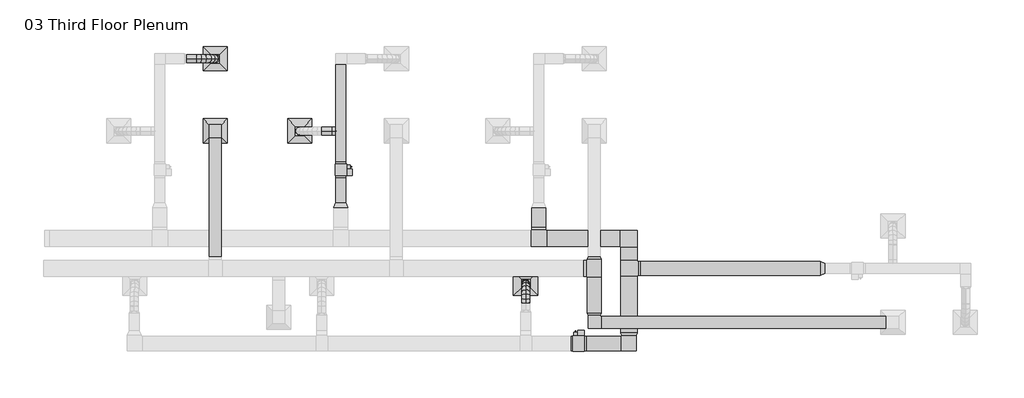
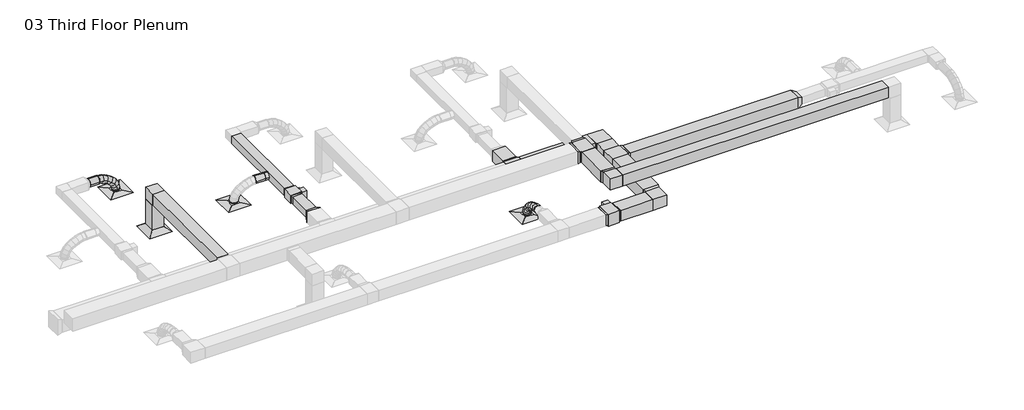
# One storey, part 7 of 9: 16 duct fittings, 16 duct segments, 4 air terminals, 2 proxies.
"""IFC4 building model written with IfcOpenShell, lengths in millimetres."""

from ifc_helpers import new_model, si_unit, point, frame, frame_2d, origin, place, context, project, spatial, polyline, circle_curve, ellipse_curve, trimmed, segment, composite_curve, outline, extrude, transform, mapped, element, save
from ifc_brep_helpers import plane_surface, cylinder_surface, advanced_brep
from components import return_diffuser_d30_returndiffuser_24x24_12x12_connection_ff543d60, supply_diffuser_rectangular_face_round_neck_d30_6390248a, bcn6785_vav_d30_vav1_8c327968, bcn6785_vav_d30_vav2_f6575c8f, rectangular_elbow_mitered_standard_f5573d14, rectangular_elbow_mitered_standard_452c98c7, rectangular_elbow_mitered_standard_4ff1c4e8, rectangular_tee_standard_a3fcfff0, rectangular_tee_standard_6c605370, rectangular_transition_angle_45_degree_65bf7615, rectangular_transition_angle_45_degree_4b662868, rectangular_transition_angle_45_degree_183635ce, rectangular_transition_angle_45_degree_4f949d70, rectangular_transition_angle_45_degree_74625674, rectangular_transition_angle_45_degree_97535d2c, rectangular_transition_angle_45_degree_6fcfed4c, round_takeoff_standard_1127d77f

model = new_model("IFC4")

# Units and contexts
model_context = context("Model", 3, world=origin())
ifc_project = project(units=[si_unit("LENGTHUNIT", "METRE", prefix="MILLI")], contexts=[model_context])

# Site, building, storey
site = spatial("IfcSite", under=ifc_project)
building = spatial("IfcBuilding", under=site)
storey = spatial("IfcBuildingStorey", under=building, Name="03 Third Floor Plenum", Elevation=7620.0)

# Air terminals
placement = place(None, origin())
return_diffuser_d30_returndiffuser_24x24_12x12_connection_shape = return_diffuser_d30_returndiffuser_24x24_12x12_connection_ff543d60(model_context)
element("IfcAirTerminal", 1, ObjectType="Return Diffuser : D30_ReturnDiffuser_24x24 12x12 Connection", at=placement, inside=storey, context=model_context, shape_type="MappedRepresentation", body=[
    mapped(return_diffuser_d30_returndiffuser_24x24_12x12_connection_shape, transform((681.2457383, 10036.7671675, 7620.0), x_axis=(1.0, 0.0, 0.0), y_axis=(0.0, 1.0, 0.0), z_axis=(0.0, 0.0, 1.0))),
])
supply_diffuser_rectangular_face_round_neck_d30_shape = supply_diffuser_rectangular_face_round_neck_d30_6390248a(model_context)
element("IfcAirTerminal", 2, ObjectType="Supply Diffuser - Rectangular Face Round Neck : D30_SupplyDiffuser_24x24 8 Neck", at=placement, inside=storey, context=model_context, shape_type="MappedRepresentation", body=[
    mapped(supply_diffuser_rectangular_face_round_neck_d30_shape, transform((681.2457383, 11865.5671675, 7620.0), x_axis=(1.0, 0.0, 0.0), y_axis=(0.0, 1.0, 0.0), z_axis=(0.0, 0.0, 1.0))),
])
element("IfcAirTerminal", 3, ObjectType="Supply Diffuser - Rectangular Face Round Neck : D30_SupplyDiffuser_24x24 8 Neck", at=placement, inside=storey, context=model_context, shape_type="MappedRepresentation", body=[
    mapped(supply_diffuser_rectangular_face_round_neck_d30_shape, transform((2814.8457383, 10036.7671675, 7620.0), x_axis=(1.0, 0.0, 0.0), y_axis=(0.0, 1.0, 0.0), z_axis=(0.0, 0.0, 1.0))),
])
element("IfcAirTerminal", 4, ObjectType="Supply Diffuser - Rectangular Face Round Neck : D30_SupplyDiffuser_24x24 8 Neck", at=placement, inside=storey, context=model_context, shape_type="MappedRepresentation", body=[
    mapped(supply_diffuser_rectangular_face_round_neck_d30_shape, transform((8513.07093, 6185.4921675, 7620.0), x_axis=(1.0, 0.0, 0.0), y_axis=(0.0, 1.0, 0.0), z_axis=(0.0, 0.0, 1.0))),
])

# Proxies
bcn6785_vav_d30_vav1_shape = bcn6785_vav_d30_vav1_8c327968(model_context)
element("IfcBuildingElementProxy", 5, Name="BCN6785_VAV : D30_VAV1", ObjectType="BCN6785_VAV : D30_VAV1", at=placement, inside=storey, context=model_context, shape_type="MappedRepresentation", body=[
    mapped(bcn6785_vav_d30_vav1_shape, transform((3851.251634, 8909.6421675, 7956.55), x_axis=(0.0, 1.0, 0.0), y_axis=(-1.0, 0.0, 0.0), z_axis=(0.0, 0.0, 1.0))),
])
bcn6785_vav_d30_vav2_shape = bcn6785_vav_d30_vav2_f6575c8f(model_context)
element("IfcBuildingElementProxy", 6, Name="BCN6785_VAV : D30_VAV2", ObjectType="BCN6785_VAV : D30_VAV2", at=placement, inside=storey, context=model_context, shape_type="MappedRepresentation", body=[
    mapped(bcn6785_vav_d30_vav2_shape, transform((10001.9699331, 4659.6636656, 7905.75), x_axis=(-1.0, 0.0, 0.0), y_axis=(0.0, -1.0, 0.0), z_axis=(0.0, 0.0, 1.0))),
])

# Duct fittings
rectangular_elbow_mitered_standard_shape = rectangular_elbow_mitered_standard_f5573d14(model_context)
element("IfcDuctFitting", 7, ObjectType="Rectangular Elbow - Mitered : Standard", at=placement, inside=storey, context=model_context, shape_type="MappedRepresentation", body=[
    mapped(rectangular_elbow_mitered_standard_shape, transform((11126.2019883, 7316.8809317, 8077.2), x_axis=(0.0, 1.0, 0.0), y_axis=(-1.0, 0.0, 0.0), z_axis=(0.0, 0.0, 1.0))),
])
rectangular_elbow_mitered_standard_2_shape = rectangular_elbow_mitered_standard_452c98c7(model_context)
element("IfcDuctFitting", 8, ObjectType="Rectangular Elbow - Mitered : Standard", at=placement, inside=storey, context=model_context, shape_type="MappedRepresentation", body=[
    mapped(rectangular_elbow_mitered_standard_2_shape, transform((11126.2019883, 4659.6636656, 8077.2), x_axis=(1.0, 0.0, 0.0), y_axis=(0.0, 1.0, 0.0), z_axis=(0.0, 0.0, 1.0))),
])
rectangular_elbow_mitered_standard_3_shape = rectangular_elbow_mitered_standard_4ff1c4e8(model_context)
element("IfcDuctFitting", 9, ObjectType="Rectangular Elbow - Mitered : Standard", at=placement, inside=storey, context=model_context, shape_type="MappedRepresentation", body=[
    mapped(rectangular_elbow_mitered_standard_3_shape, transform((10252.2832383, 5194.8921675, 8610.6), x_axis=(0.0, -1.0, 0.0), y_axis=(1.0, 0.0, 0.0), z_axis=(0.0, 0.0, 1.0))),
])
element("IfcDuctFitting", 10, ObjectType="Rectangular Elbow - Mitered : Standard", at=placement, inside=storey, context=model_context, shape_type="MappedRepresentation", body=[
    mapped(rectangular_elbow_mitered_standard_3_shape, transform((681.2457383, 10036.7671675, 8610.6), x_axis=(0.0, 0.0, 1.0), y_axis=(0.0, -1.0, 0.0), z_axis=(1.0, 0.0, 0.0))),
])
rectangular_tee_standard_shape = rectangular_tee_standard_a3fcfff0(model_context)
element("IfcDuctFitting", 11, ObjectType="Rectangular Tee : Standard", at=placement, inside=storey, context=model_context, shape_type="MappedRepresentation", body=[
    mapped(rectangular_tee_standard_shape, transform((10252.2832383, 6562.5101985, 8610.6), x_axis=(0.0, -1.0, 0.0), y_axis=(1.0, 0.0, 0.0), z_axis=(0.0, 0.0, 1.0))),
])
rectangular_tee_standard_2_shape = rectangular_tee_standard_6c605370(model_context)
element("IfcDuctFitting", 12, ObjectType="Rectangular Tee : Standard", at=placement, inside=storey, context=model_context, shape_type="MappedRepresentation", body=[
    mapped(rectangular_tee_standard_2_shape, transform((8850.289134, 7316.8809317, 8077.2), x_axis=(-1.0, 0.0, 0.0), y_axis=(0.0, -1.0, 0.0), z_axis=(0.0, 0.0, 1.0))),
])
element("IfcDuctFitting", 13, ObjectType="Rectangular Tee : Standard", at=placement, inside=storey, context=model_context, shape_type="MappedRepresentation", body=[
    mapped(rectangular_tee_standard_2_shape, transform((11126.2019883, 6562.2580171, 8077.2), x_axis=(0.0, 1.0, 0.0), y_axis=(-1.0, 0.0, 0.0), z_axis=(0.0, 0.0, 1.0))),
])
rectangular_transition_angle_45_degree_shape = rectangular_transition_angle_45_degree_65bf7615(model_context)
element("IfcDuctFitting", 14, ObjectType="Rectangular Transition - Angle : 45 Degree", at=placement, inside=storey, context=model_context, shape_type="MappedRepresentation", body=[
    mapped(rectangular_transition_angle_45_degree_shape, transform((10252.2832383, 6791.1101985, 8610.6), x_axis=(0.0, 1.0, 0.0), y_axis=(-1.0, 0.0, 0.0), z_axis=(0.0, 0.0, 1.0))),
])
element("IfcDuctFitting", 15, ObjectType="Rectangular Transition - Angle : 45 Degree", at=placement, inside=storey, context=model_context, shape_type="MappedRepresentation", body=[
    mapped(rectangular_transition_angle_45_degree_shape, transform((10252.2832383, 5434.013192, 8610.6), x_axis=(0.0, -1.0, 0.0), y_axis=(1.0, 0.0, 0.0), z_axis=(0.0, 0.0, 1.0))),
])
rectangular_transition_angle_45_degree_2_shape = rectangular_transition_angle_45_degree_4b662868(model_context)
element("IfcDuctFitting", 16, ObjectType="Rectangular Transition - Angle : 45 Degree", at=placement, inside=storey, context=model_context, shape_type="MappedRepresentation", body=[
    mapped(rectangular_transition_angle_45_degree_2_shape, transform((10049.0832383, 6562.5101985, 8610.6), x_axis=(-1.0, 0.0, 0.0), y_axis=(0.0, -1.0, 0.0), z_axis=(0.0, 0.0, 1.0))),
])
rectangular_transition_angle_45_degree_3_shape = rectangular_transition_angle_45_degree_183635ce(model_context)
element("IfcDuctFitting", 17, ObjectType="Rectangular Transition - Angle : 45 Degree", at=placement, inside=storey, context=model_context, shape_type="MappedRepresentation", body=[
    mapped(rectangular_transition_angle_45_degree_3_shape, transform((15952.2817659, 6562.2580171, 8077.2), x_axis=(1.0, 0.0, 0.0), y_axis=(0.0, 1.0, 0.0), z_axis=(0.0, 0.0, 1.0))),
])
rectangular_transition_angle_45_degree_4_shape = rectangular_transition_angle_45_degree_4f949d70(model_context)
element("IfcDuctFitting", 18, ObjectType="Rectangular Transition - Angle : 45 Degree", at=placement, inside=storey, context=model_context, shape_type="MappedRepresentation", body=[
    mapped(rectangular_transition_angle_45_degree_4_shape, transform((11354.8019883, 6562.2580171, 8077.2), x_axis=(1.0, 0.0, 0.0), y_axis=(0.0, 1.0, 0.0), z_axis=(0.0, 0.0, 1.0))),
])
rectangular_transition_angle_45_degree_5_shape = rectangular_transition_angle_45_degree_74625674(model_context)
element("IfcDuctFitting", 19, ObjectType="Rectangular Transition - Angle : 45 Degree", at=placement, inside=storey, context=model_context, shape_type="MappedRepresentation", body=[
    mapped(rectangular_transition_angle_45_degree_5_shape, transform((3851.251634, 8223.8421675, 8077.2), x_axis=(0.0, -1.0, 0.0), y_axis=(1.0, 0.0, 0.0), z_axis=(0.0, 0.0, 1.0))),
])
rectangular_transition_angle_45_degree_6_shape = rectangular_transition_angle_45_degree_97535d2c(model_context)
element("IfcDuctFitting", 20, ObjectType="Rectangular Transition - Angle : 45 Degree", at=placement, inside=storey, context=model_context, shape_type="MappedRepresentation", body=[
    mapped(rectangular_transition_angle_45_degree_6_shape, transform((8850.289134, 7606.8019562, 8077.2), x_axis=(0.0, -1.0, 0.0), y_axis=(1.0, 0.0, 0.0), z_axis=(0.0, 0.0, 1.0))),
])
rectangular_transition_angle_45_degree_7_shape = rectangular_transition_angle_45_degree_6fcfed4c(model_context)
element("IfcDuctFitting", 21, ObjectType="Rectangular Transition - Angle : 45 Degree", at=placement, inside=storey, context=model_context, shape_type="MappedRepresentation", body=[
    mapped(rectangular_transition_angle_45_degree_7_shape, transform((11126.2019883, 4924.1846901, 8077.2), x_axis=(0.0, -1.0, 0.0), y_axis=(1.0, 0.0, 0.0), z_axis=(0.0, 0.0, 1.0))),
])
round_takeoff_standard_shape = round_takeoff_standard_1127d77f(model_context)
element("IfcDuctFitting", 22, ObjectType="Round Takeoff : Standard", at=placement, inside=storey, context=model_context, shape_type="MappedRepresentation", body=[
    mapped(round_takeoff_standard_shape, transform((3724.251634, 10036.7671675, 8077.2), x_axis=(-1.0, 0.0, 0.0), y_axis=(0.0, 1.0, 0.0), z_axis=(0.0, 0.0, -1.0))),
])

# Duct segments
element("IfcDuctSegment", 23, ObjectType="Flex - Round", at=placement, inside=storey, context=model_context, shape_type="AdvancedBrep", body=[
    advanced_brep(
    [(193.651634, 11967.1671675, 8077.2), (193.651634, 11865.5671675, 7975.6), (193.651634, 11763.9671675, 8077.2), (193.651634, 11865.5671675, 8178.8), (207.6598765, 11967.1671675, 8077.2), (199.6002398, 11865.5671675, 7975.6), (207.6598765, 11763.9671675, 8077.2), (215.7195132, 11865.5671675, 8178.8), (681.2457383, 11967.1671675, 7673.975), (782.8457383, 11865.5671675, 7673.975), (681.2457383, 11763.9671675, 7673.975), (579.6457383, 11865.5671675, 7673.975), (303.001546, 11967.1671675, 8061.9778475), (276.5341556, 11865.5671675, 7963.3168105), (303.001546, 11763.9671675, 8061.9778475), (329.4689365, 11865.5671675, 8160.6388846), (413.801663, 11967.1671675, 8019.5285565), (368.0682817, 11865.5671675, 7928.2486277), (413.801663, 11763.9671675, 8019.5285565), (459.5350443, 11865.5671675, 8110.8084854), (516.5390628, 11967.1671675, 7954.6778766), (453.4257256, 11865.5671675, 7874.3686553), (516.5390628, 11763.9671675, 7954.6778766), (579.6524001, 11865.5671675, 8034.987098), (601.7008234, 11967.1671675, 7872.2515575), (521.7242587, 11865.5671675, 7808.2639076), (601.7008234, 11763.9671675, 7872.2515575), (681.677388, 11865.5671675, 7936.2392074), (659.7740226, 11967.1671675, 7777.0753487), (565.2379514, 11865.5671675, 7736.9492848), (659.7740226, 11763.9671675, 7777.0753487), (754.3100938, 11865.5671675, 7817.2014127), (681.2457383, 11967.1671675, 7694.6897958), (579.6457383, 11865.5671675, 7681.6675594), (681.2457383, 11763.9671675, 7694.6897958), (782.8457383, 11865.5671675, 7707.7120321)],
    [
        (0, 1, circle_curve(frame((193.651634, 11865.5671675, 8077.2), z_axis=(-1.0, 0.0, 0.0), x_axis=(0.0, 1.0, 0.0)), 101.6)),
        (1, 2, circle_curve(frame((193.651634, 11865.5671675, 8077.2), z_axis=(-1.0, 0.0, 0.0), x_axis=(0.0, 1.0, 0.0)), 101.6)),
        (2, 3, circle_curve(frame((193.651634, 11865.5671675, 8077.2), z_axis=(-1.0, 0.0, 0.0), x_axis=(0.0, 1.0, 0.0)), 101.6)),
        (3, 0, circle_curve(frame((193.651634, 11865.5671675, 8077.2), z_axis=(-1.0, 0.0, 0.0), x_axis=(0.0, 1.0, 0.0)), 101.6)),
        (0, 4),
        (4, 5, ellipse_curve(frame((207.6598765, 11865.5671675, 8077.2), z_axis=(-0.9968683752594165, 0.0, 0.07907871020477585), x_axis=(-0.07907871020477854, 0.0, -0.9968683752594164)), 101.9191726, 101.6)),
        (5, 1),
        (5, 6, ellipse_curve(frame((207.6598765, 11865.5671675, 8077.2), z_axis=(-0.9968683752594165, 0.0, 0.07907871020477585), x_axis=(-0.07907871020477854, 0.0, -0.9968683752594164)), 101.9191726, 101.6)),
        (6, 2),
        (6, 7, ellipse_curve(frame((207.6598765, 11865.5671675, 8077.2), z_axis=(-0.9968683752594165, 0.0, 0.07907871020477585), x_axis=(-0.07907871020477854, 0.0, -0.9968683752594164)), 101.9191726, 101.6)),
        (7, 3),
        (7, 4, ellipse_curve(frame((207.6598765, 11865.5671675, 8077.2), z_axis=(-0.9968683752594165, 0.0, 0.07907871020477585), x_axis=(-0.07907871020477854, 0.0, -0.9968683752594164)), 101.9191726, 101.6)),
        (8, 9, circle_curve(frame((681.2457383, 11865.5671675, 7673.975), z_axis=(0.0, 0.0, -1.0), x_axis=(0.0, 1.0, 0.0)), 101.6)),
        (9, 10, circle_curve(frame((681.2457383, 11865.5671675, 7673.975), z_axis=(0.0, 0.0, -1.0), x_axis=(0.0, 1.0, 0.0)), 101.6)),
        (10, 11, circle_curve(frame((681.2457383, 11865.5671675, 7673.975), z_axis=(0.0, 0.0, -1.0), x_axis=(0.0, 1.0, 0.0)), 101.6)),
        (11, 8, circle_curve(frame((681.2457383, 11865.5671675, 7673.975), z_axis=(0.0, 0.0, -1.0), x_axis=(0.0, 1.0, 0.0)), 101.6)),
        (4, 12),
        (12, 13, ellipse_curve(frame((303.001546, 11865.5671675, 8061.9778475), z_axis=(-0.965849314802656, 0.0, 0.25910442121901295), x_axis=(-0.2591044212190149, 0.0, -0.9658493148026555)), 102.1495129, 101.6)),
        (13, 5),
        (13, 14, ellipse_curve(frame((303.001546, 11865.5671675, 8061.9778475), z_axis=(-0.965849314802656, 0.0, 0.25910442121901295), x_axis=(-0.2591044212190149, 0.0, -0.9658493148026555)), 102.1495129, 101.6)),
        (14, 6),
        (14, 15, ellipse_curve(frame((303.001546, 11865.5671675, 8061.9778475), z_axis=(-0.965849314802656, 0.0, 0.25910442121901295), x_axis=(-0.2591044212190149, 0.0, -0.9658493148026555)), 102.1495129, 101.6)),
        (15, 7),
        (15, 12, ellipse_curve(frame((303.001546, 11865.5671675, 8061.9778475), z_axis=(-0.965849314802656, 0.0, 0.25910442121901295), x_axis=(-0.2591044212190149, 0.0, -0.9658493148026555)), 102.1495129, 101.6)),
        (12, 16),
        (16, 17, ellipse_curve(frame((413.801663, 11865.5671675, 8019.5285565), z_axis=(-0.8940608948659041, 0.0, 0.44794543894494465), x_axis=(-0.44794543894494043, 0.0, -0.8940608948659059)), 102.0958744, 101.6)),
        (17, 13),
        (17, 18, ellipse_curve(frame((413.801663, 11865.5671675, 8019.5285565), z_axis=(-0.8940608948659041, 0.0, 0.44794543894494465), x_axis=(-0.44794543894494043, 0.0, -0.8940608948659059)), 102.0958744, 101.6)),
        (18, 14),
        (18, 19, ellipse_curve(frame((413.801663, 11865.5671675, 8019.5285565), z_axis=(-0.8940608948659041, 0.0, 0.44794543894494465), x_axis=(-0.44794543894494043, 0.0, -0.8940608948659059)), 102.0958744, 101.6)),
        (19, 15),
        (19, 16, ellipse_curve(frame((413.801663, 11865.5671675, 8019.5285565), z_axis=(-0.8940608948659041, 0.0, 0.44794543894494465), x_axis=(-0.44794543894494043, 0.0, -0.8940608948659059)), 102.0958744, 101.6)),
        (16, 20),
        (20, 21, ellipse_curve(frame((516.5390628, 11865.5671675, 7954.6778766), z_axis=(-0.7862553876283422, 0.0, 0.6179016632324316), x_axis=(-0.6179016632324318, 0.0, -0.786255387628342)), 102.141394, 101.6)),
        (21, 17),
        (21, 22, ellipse_curve(frame((516.5390628, 11865.5671675, 7954.6778766), z_axis=(-0.7862553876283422, 0.0, 0.6179016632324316), x_axis=(-0.6179016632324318, 0.0, -0.786255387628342)), 102.141394, 101.6)),
        (22, 18),
        (22, 23, ellipse_curve(frame((516.5390628, 11865.5671675, 7954.6778766), z_axis=(-0.7862553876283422, 0.0, 0.6179016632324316), x_axis=(-0.6179016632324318, 0.0, -0.786255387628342)), 102.141394, 101.6)),
        (23, 19),
        (23, 20, ellipse_curve(frame((516.5390628, 11865.5671675, 7954.6778766), z_axis=(-0.7862553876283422, 0.0, 0.6179016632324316), x_axis=(-0.6179016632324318, 0.0, -0.786255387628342)), 102.141394, 101.6)),
        (20, 24),
        (24, 25, ellipse_curve(frame((601.7008234, 11865.5671675, 7872.2515575), z_axis=(-0.6247331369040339, 0.0, 0.7808383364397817), x_axis=(-0.7808383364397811, 0.0, -0.6247331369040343)), 102.4239729, 101.6)),
        (25, 21),
        (25, 26, ellipse_curve(frame((601.7008234, 11865.5671675, 7872.2515575), z_axis=(-0.6247331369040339, 0.0, 0.7808383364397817), x_axis=(-0.7808383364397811, 0.0, -0.6247331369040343)), 102.4239729, 101.6)),
        (26, 22),
        (26, 27, ellipse_curve(frame((601.7008234, 11865.5671675, 7872.2515575), z_axis=(-0.6247331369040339, 0.0, 0.7808383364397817), x_axis=(-0.7808383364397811, 0.0, -0.6247331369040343)), 102.4239729, 101.6)),
        (27, 23),
        (27, 24, ellipse_curve(frame((601.7008234, 11865.5671675, 7872.2515575), z_axis=(-0.6247331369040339, 0.0, 0.7808383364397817), x_axis=(-0.7808383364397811, 0.0, -0.6247331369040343)), 102.4239729, 101.6)),
        (24, 28),
        (28, 29, ellipse_curve(frame((659.7740226, 11865.5671675, 7777.0753487), z_axis=(-0.39071365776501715, 0.0, 0.9205122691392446), x_axis=(-0.9205122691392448, 0.0, -0.390713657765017)), 102.6994146, 101.6)),
        (29, 25),
        (29, 30, ellipse_curve(frame((659.7740226, 11865.5671675, 7777.0753487), z_axis=(-0.39071365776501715, 0.0, 0.9205122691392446), x_axis=(-0.9205122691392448, 0.0, -0.390713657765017)), 102.6994146, 101.6)),
        (30, 26),
        (30, 31, ellipse_curve(frame((659.7740226, 11865.5671675, 7777.0753487), z_axis=(-0.39071365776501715, 0.0, 0.9205122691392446), x_axis=(-0.9205122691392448, 0.0, -0.390713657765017)), 102.6994146, 101.6)),
        (31, 27),
        (31, 28, ellipse_curve(frame((659.7740226, 11865.5671675, 7777.0753487), z_axis=(-0.39071365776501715, 0.0, 0.9205122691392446), x_axis=(-0.9205122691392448, 0.0, -0.390713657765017)), 102.6994146, 101.6)),
        (28, 32),
        (32, 33, ellipse_curve(frame((681.2457383, 11865.5671675, 7694.6897958), z_axis=(-0.1271316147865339, 0.0, 0.9918858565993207), x_axis=(-0.9918858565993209, 0.0, -0.12713161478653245)), 102.431141, 101.6)),
        (33, 29),
        (33, 34, ellipse_curve(frame((681.2457383, 11865.5671675, 7694.6897958), z_axis=(-0.1271316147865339, 0.0, 0.9918858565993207), x_axis=(-0.9918858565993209, 0.0, -0.12713161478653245)), 102.431141, 101.6)),
        (34, 30),
        (34, 35, ellipse_curve(frame((681.2457383, 11865.5671675, 7694.6897958), z_axis=(-0.1271316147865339, 0.0, 0.9918858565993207), x_axis=(-0.9918858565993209, 0.0, -0.12713161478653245)), 102.431141, 101.6)),
        (35, 31),
        (35, 32, ellipse_curve(frame((681.2457383, 11865.5671675, 7694.6897958), z_axis=(-0.1271316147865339, 0.0, 0.9918858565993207), x_axis=(-0.9918858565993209, 0.0, -0.12713161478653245)), 102.431141, 101.6)),
        (32, 8),
        (11, 33),
        (10, 34),
        (9, 35),
    ],
    [
        plane_surface(frame((193.651634, 11865.5671675, 7975.6), z_axis=(-1.0, 0.0, 0.0), x_axis=(0.0, 1.0, 0.0))),
        cylinder_surface(frame((193.651634, 11865.5671675, 8077.2), z_axis=(-1.0, 0.0, 0.0), x_axis=(0.0, 1.0, 0.0)), 101.6),
        plane_surface(frame((681.2457383, 11763.9671675, 7673.975), z_axis=(0.0, 0.0, -1.0), x_axis=(-1.0, 0.0, 0.0))),
        cylinder_surface(frame((207.6598765, 11865.5671675, 8077.2), z_axis=(-0.9874931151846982, 0.0, 0.1576621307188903), x_axis=(0.0, 1.0, 0.0)), 101.6),
        cylinder_surface(frame((303.001546, 11865.5671675, 8061.9778475), z_axis=(-0.9338139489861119, 0.0, 0.35775900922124), x_axis=(0.0, 1.0, 0.0)), 101.6),
        cylinder_surface(frame((413.801663, 11865.5671675, 8019.5285565), z_axis=(-0.8456230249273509, 0.0, 0.5337805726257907), x_axis=(0.0, 1.0, 0.0)), 101.6),
        cylinder_surface(frame((516.5390628, 11865.5671675, 7954.6778766), z_axis=(-0.718552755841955, 0.0, 0.6954724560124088), x_axis=(0.0, 1.0, 0.0)), 101.6),
        cylinder_surface(frame((601.7008234, 11865.5671675, 7872.2515575), z_axis=(-0.5208619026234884, 0.0, 0.8536409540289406), x_axis=(0.0, 1.0, 0.0)), 101.6),
        cylinder_surface(frame((659.7740226, 11865.5671675, 7777.0753487), z_axis=(-0.2522001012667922, 0.0, 0.9676751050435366), x_axis=(0.0, 1.0, 0.0)), 101.6),
        cylinder_surface(frame((681.2457383, 11865.5671675, 7694.6897958), z_axis=(0.0, 0.0, 1.0), x_axis=(0.0, 1.0, 0.0)), 101.6),
    ],
    [
        (0, [[1, 2, 3, 4]]),
        (1, [[-1, 5, 6, 7]]),
        (1, [[-2, -7, 8, 9]]),
        (1, [[-3, -9, 10, 11]]),
        (1, [[-4, -11, 12, -5]]),
        (2, [[13, 14, 15, 16]]),
        (3, [[-6, 17, 18, 19]]),
        (3, [[-8, -19, 20, 21]]),
        (3, [[-10, -21, 22, 23]]),
        (3, [[-12, -23, 24, -17]]),
        (4, [[-18, 25, 26, 27]]),
        (4, [[-20, -27, 28, 29]]),
        (4, [[-22, -29, 30, 31]]),
        (4, [[-24, -31, 32, -25]]),
        (5, [[-26, 33, 34, 35]]),
        (5, [[-28, -35, 36, 37]]),
        (5, [[-30, -37, 38, 39]]),
        (5, [[-32, -39, 40, -33]]),
        (6, [[-34, 41, 42, 43]]),
        (6, [[-36, -43, 44, 45]]),
        (6, [[-38, -45, 46, 47]]),
        (6, [[-40, -47, 48, -41]]),
        (7, [[-42, 49, 50, 51]]),
        (7, [[-44, -51, 52, 53]]),
        (7, [[-46, -53, 54, 55]]),
        (7, [[-48, -55, 56, -49]]),
        (8, [[-50, 57, 58, 59]]),
        (8, [[-52, -59, 60, 61]]),
        (8, [[-54, -61, 62, 63]]),
        (8, [[-56, -63, 64, -57]]),
        (9, [[-58, 65, -16, 66]]),
        (9, [[-60, -66, -15, 67]]),
        (9, [[-62, -67, -14, 68]]),
        (9, [[-64, -68, -13, -65]]),
    ],
),
])
element("IfcDuctSegment", 24, ObjectType="Flex - Round", at=placement, inside=storey, context=model_context, shape_type="AdvancedBrep", body=[
    advanced_brep(
    [(8411.47093, 5675.6636656, 8077.2), (8513.07093, 5675.6636656, 7975.6), (8614.67093, 5675.6636656, 8077.2), (8513.07093, 5675.6636656, 8178.8), (8411.47093, 5687.1391986, 8077.2), (8513.07093, 5680.6118042, 7975.6), (8614.67093, 5687.1391986, 8077.2), (8513.07093, 5693.6665931, 8178.8), (8411.47093, 6185.4921675, 7673.975), (8513.07093, 6287.0921675, 7673.975), (8614.67093, 6185.4921675, 7673.975), (8513.07093, 6083.8921675, 7673.975), (8411.47093, 5772.1277204, 8066.2343923), (8513.07093, 5750.2990656, 7966.6086308), (8614.67093, 5772.1277204, 8066.2343923), (8513.07093, 5793.9563753, 8165.8601537), (8411.47093, 5871.4914625, 8035.1619198), (8513.07093, 5833.1446801, 7940.7016146), (8614.67093, 5871.4914625, 8035.1619198), (8513.07093, 5909.8382449, 8129.622225), (8411.47093, 5967.2887972, 7986.7191087), (8513.07093, 5913.9000048, 7899.8652494), (8614.67093, 5967.2887972, 7986.7191087), (8513.07093, 6020.6775895, 8073.5729679), (8411.47093, 6053.0536296, 7923.6424851), (8513.07093, 5985.0251663, 7847.5555217), (8614.67093, 6053.0536296, 7923.6424851), (8513.07093, 6121.082093, 7999.7294484), (8411.47093, 6122.3198653, 7848.668575), (8513.07093, 6039.2836678, 7788.8260127), (8614.67093, 6122.3198653, 7848.668575), (8513.07093, 6205.3560628, 7908.5111373), (8411.47093, 6168.6214095, 7764.5339046), (8513.07093, 6072.8873106, 7727.7647358), (8614.67093, 6168.6214095, 7764.5339046), (8513.07093, 6264.3555084, 7801.3030734), (8411.47093, 6185.4921675, 7692.5825254), (8513.07093, 6083.8921675, 7680.830589), (8614.67093, 6185.4921675, 7692.5825254), (8513.07093, 6287.0921675, 7704.3344618)],
    [
        (0, 1, circle_curve(frame((8513.07093, 5675.6636656, 8077.2), z_axis=(0.0, -1.0, 0.0), x_axis=(-1.0, 0.0, 0.0)), 101.6)),
        (1, 2, circle_curve(frame((8513.07093, 5675.6636656, 8077.2), z_axis=(0.0, -1.0, 0.0), x_axis=(-1.0, 0.0, 0.0)), 101.6)),
        (2, 3, circle_curve(frame((8513.07093, 5675.6636656, 8077.2), z_axis=(0.0, -1.0, 0.0), x_axis=(-1.0, 0.0, 0.0)), 101.6)),
        (3, 0, circle_curve(frame((8513.07093, 5675.6636656, 8077.2), z_axis=(0.0, -1.0, 0.0), x_axis=(-1.0, 0.0, 0.0)), 101.6)),
        (0, 4),
        (4, 5, ellipse_curve(frame((8513.07093, 5687.1391986, 8077.2), z_axis=(0.0, -0.9979425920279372, 0.0641138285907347), x_axis=(0.0, -0.06411382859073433, -0.9979425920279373)), 101.8094636, 101.6)),
        (5, 1),
        (5, 6, ellipse_curve(frame((8513.07093, 5687.1391986, 8077.2), z_axis=(0.0, -0.9979425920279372, 0.0641138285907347), x_axis=(0.0, -0.06411382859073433, -0.9979425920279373)), 101.8094636, 101.6)),
        (6, 2),
        (6, 7, ellipse_curve(frame((8513.07093, 5687.1391986, 8077.2), z_axis=(0.0, -0.9979425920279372, 0.0641138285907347), x_axis=(0.0, -0.06411382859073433, -0.9979425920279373)), 101.8094636, 101.6)),
        (7, 3),
        (7, 4, ellipse_curve(frame((8513.07093, 5687.1391986, 8077.2), z_axis=(0.0, -0.9979425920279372, 0.0641138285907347), x_axis=(0.0, -0.06411382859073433, -0.9979425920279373)), 101.8094636, 101.6)),
        (8, 9, circle_curve(frame((8513.07093, 6185.4921675, 7673.975), z_axis=(0.0, 0.0, -1.0), x_axis=(-1.0, 0.0, 0.0)), 101.6)),
        (9, 10, circle_curve(frame((8513.07093, 6185.4921675, 7673.975), z_axis=(0.0, 0.0, -1.0), x_axis=(-1.0, 0.0, 0.0)), 101.6)),
        (10, 11, circle_curve(frame((8513.07093, 6185.4921675, 7673.975), z_axis=(0.0, 0.0, -1.0), x_axis=(-1.0, 0.0, 0.0)), 101.6)),
        (11, 8, circle_curve(frame((8513.07093, 6185.4921675, 7673.975), z_axis=(0.0, 0.0, -1.0), x_axis=(-1.0, 0.0, 0.0)), 101.6)),
        (4, 12),
        (12, 13, ellipse_curve(frame((8513.07093, 5772.1277204, 8066.2343923), z_axis=(0.0, -0.9768272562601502, 0.21402923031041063), x_axis=(0.0, -0.2140292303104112, -0.9768272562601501)), 101.9891294, 101.6)),
        (13, 5),
        (13, 14, ellipse_curve(frame((8513.07093, 5772.1277204, 8066.2343923), z_axis=(0.0, -0.9768272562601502, 0.21402923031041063), x_axis=(0.0, -0.2140292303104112, -0.9768272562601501)), 101.9891294, 101.6)),
        (14, 6),
        (14, 15, ellipse_curve(frame((8513.07093, 5772.1277204, 8066.2343923), z_axis=(0.0, -0.9768272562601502, 0.21402923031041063), x_axis=(0.0, -0.2140292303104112, -0.9768272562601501)), 101.9891294, 101.6)),
        (15, 7),
        (15, 12, ellipse_curve(frame((8513.07093, 5772.1277204, 8066.2343923), z_axis=(0.0, -0.9768272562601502, 0.21402923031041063), x_axis=(0.0, -0.2140292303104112, -0.9768272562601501)), 101.9891294, 101.6)),
        (12, 16),
        (16, 17, ellipse_curve(frame((8513.07093, 5871.4914625, 8035.1619198), z_axis=(0.0, -0.9265613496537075, 0.3761436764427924), x_axis=(0.0, -0.37614367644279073, -0.9265613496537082)), 101.9471675, 101.6)),
        (17, 13),
        (17, 18, ellipse_curve(frame((8513.07093, 5871.4914625, 8035.1619198), z_axis=(0.0, -0.9265613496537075, 0.3761436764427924), x_axis=(0.0, -0.37614367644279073, -0.9265613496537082)), 101.9471675, 101.6)),
        (18, 14),
        (18, 19, ellipse_curve(frame((8513.07093, 5871.4914625, 8035.1619198), z_axis=(0.0, -0.9265613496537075, 0.3761436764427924), x_axis=(0.0, -0.37614367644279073, -0.9265613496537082)), 101.9471675, 101.6)),
        (19, 15),
        (19, 16, ellipse_curve(frame((8513.07093, 5871.4914625, 8035.1619198), z_axis=(0.0, -0.9265613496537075, 0.3761436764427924), x_axis=(0.0, -0.37614367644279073, -0.9265613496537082)), 101.9471675, 101.6)),
        (16, 20),
        (20, 21, ellipse_curve(frame((8513.07093, 5967.2887972, 7986.7191087), z_axis=(0.0, -0.8519197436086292, 0.5236723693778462), x_axis=(0.0, -0.5236723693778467, -0.851919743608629)), 101.9507529, 101.6)),
        (21, 17),
        (21, 22, ellipse_curve(frame((8513.07093, 5967.2887972, 7986.7191087), z_axis=(0.0, -0.8519197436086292, 0.5236723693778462), x_axis=(0.0, -0.5236723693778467, -0.851919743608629)), 101.9507529, 101.6)),
        (22, 18),
        (22, 23, ellipse_curve(frame((8513.07093, 5967.2887972, 7986.7191087), z_axis=(0.0, -0.8519197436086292, 0.5236723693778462), x_axis=(0.0, -0.5236723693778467, -0.851919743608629)), 101.9507529, 101.6)),
        (23, 19),
        (23, 20, ellipse_curve(frame((8513.07093, 5967.2887972, 7986.7191087), z_axis=(0.0, -0.8519197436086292, 0.5236723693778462), x_axis=(0.0, -0.5236723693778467, -0.851919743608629)), 101.9507529, 101.6)),
        (20, 24),
        (24, 25, ellipse_curve(frame((8513.07093, 6053.0536296, 7923.6424851), z_axis=(0.0, -0.7454815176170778, 0.6665262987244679), x_axis=(0.0, -0.6665262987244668, -0.7454815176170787)), 102.0641848, 101.6)),
        (25, 21),
        (25, 26, ellipse_curve(frame((8513.07093, 6053.0536296, 7923.6424851), z_axis=(0.0, -0.7454815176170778, 0.6665262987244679), x_axis=(0.0, -0.6665262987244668, -0.7454815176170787)), 102.0641848, 101.6)),
        (26, 22),
        (26, 27, ellipse_curve(frame((8513.07093, 6053.0536296, 7923.6424851), z_axis=(0.0, -0.7454815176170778, 0.6665262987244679), x_axis=(0.0, -0.6665262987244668, -0.7454815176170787)), 102.0641848, 101.6)),
        (27, 23),
        (27, 24, ellipse_curve(frame((8513.07093, 6053.0536296, 7923.6424851), z_axis=(0.0, -0.7454815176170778, 0.6665262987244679), x_axis=(0.0, -0.6665262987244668, -0.7454815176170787)), 102.0641848, 101.6)),
        (24, 28),
        (28, 29, ellipse_curve(frame((8513.07093, 6122.3198653, 7848.668575), z_axis=(0.0, -0.5846682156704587, 0.8112725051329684), x_axis=(0.0, -0.8112725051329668, -0.5846682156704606)), 102.3530281, 101.6)),
        (29, 25),
        (29, 30, ellipse_curve(frame((8513.07093, 6122.3198653, 7848.668575), z_axis=(0.0, -0.5846682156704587, 0.8112725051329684), x_axis=(0.0, -0.8112725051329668, -0.5846682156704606)), 102.3530281, 101.6)),
        (30, 26),
        (30, 31, ellipse_curve(frame((8513.07093, 6122.3198653, 7848.668575), z_axis=(0.0, -0.5846682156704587, 0.8112725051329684), x_axis=(0.0, -0.8112725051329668, -0.5846682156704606)), 102.3530281, 101.6)),
        (31, 27),
        (31, 28, ellipse_curve(frame((8513.07093, 6122.3198653, 7848.668575), z_axis=(0.0, -0.5846682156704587, 0.8112725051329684), x_axis=(0.0, -0.8112725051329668, -0.5846682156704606)), 102.3530281, 101.6)),
        (28, 32),
        (32, 33, ellipse_curve(frame((8513.07093, 6168.6214095, 7764.5339046), z_axis=(0.0, -0.35854039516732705, 0.9335142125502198), x_axis=(0.0, -0.9335142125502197, -0.35854039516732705)), 102.5523743, 101.6)),
        (33, 29),
        (33, 34, ellipse_curve(frame((8513.07093, 6168.6214095, 7764.5339046), z_axis=(0.0, -0.35854039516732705, 0.9335142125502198), x_axis=(0.0, -0.9335142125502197, -0.35854039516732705)), 102.5523743, 101.6)),
        (34, 30),
        (34, 35, ellipse_curve(frame((8513.07093, 6168.6214095, 7764.5339046), z_axis=(0.0, -0.35854039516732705, 0.9335142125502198), x_axis=(0.0, -0.9335142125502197, -0.35854039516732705)), 102.5523743, 101.6)),
        (35, 31),
        (35, 32, ellipse_curve(frame((8513.07093, 6168.6214095, 7764.5339046), z_axis=(0.0, -0.35854039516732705, 0.9335142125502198), x_axis=(0.0, -0.9335142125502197, -0.35854039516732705)), 102.5523743, 101.6)),
        (32, 36),
        (36, 37, ellipse_curve(frame((8513.07093, 6185.4921675, 7692.5825254), z_axis=(0.0, -0.1149025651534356, 0.9933767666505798), x_axis=(0.0, -0.9933767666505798, -0.1149025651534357)), 102.2774071, 101.6)),
        (37, 33),
        (37, 38, ellipse_curve(frame((8513.07093, 6185.4921675, 7692.5825254), z_axis=(0.0, -0.1149025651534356, 0.9933767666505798), x_axis=(0.0, -0.9933767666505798, -0.1149025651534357)), 102.2774071, 101.6)),
        (38, 34),
        (38, 39, ellipse_curve(frame((8513.07093, 6185.4921675, 7692.5825254), z_axis=(0.0, -0.1149025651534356, 0.9933767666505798), x_axis=(0.0, -0.9933767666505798, -0.1149025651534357)), 102.2774071, 101.6)),
        (39, 35),
        (39, 36, ellipse_curve(frame((8513.07093, 6185.4921675, 7692.5825254), z_axis=(0.0, -0.1149025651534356, 0.9933767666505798), x_axis=(0.0, -0.9933767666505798, -0.1149025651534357)), 102.2774071, 101.6)),
        (36, 8),
        (11, 37),
        (10, 38),
        (9, 39),
    ],
    [
        plane_surface(frame((8411.47093, 5675.6636656, 8077.2), z_axis=(0.0, -1.0, 0.0), x_axis=(0.0, 0.0, 1.0))),
        cylinder_surface(frame((8513.07093, 5675.6636656, 8077.2), z_axis=(0.0, -1.0, 0.0), x_axis=(-1.0, 0.0, 0.0)), 101.6),
        plane_surface(frame((8513.07093, 6083.8921675, 7673.975), z_axis=(0.0, 0.0, -1.0), x_axis=(-1.0, 0.0, 0.0))),
        cylinder_surface(frame((8513.07093, 5687.1391986, 8077.2), z_axis=(0.0, -0.9917788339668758, 0.1279638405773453), x_axis=(-1.0, 0.0, 0.0)), 101.6),
        cylinder_surface(frame((8513.07093, 5772.1277204, 8066.2343923), z_axis=(0.0, -0.9544217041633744, 0.29846140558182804), x_axis=(-1.0, 0.0, 0.0)), 101.6),
        cylinder_surface(frame((8513.07093, 5871.4914625, 8035.1619198), z_axis=(0.0, -0.8923904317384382, 0.4512641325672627), x_axis=(-1.0, 0.0, 0.0)), 101.6),
        cylinder_surface(frame((8513.07093, 5967.2887972, 7986.7191087), z_axis=(0.0, -0.8055871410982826, 0.5924773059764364), x_axis=(-1.0, 0.0, 0.0)), 101.6),
        cylinder_surface(frame((8513.07093, 6053.0536296, 7923.6424851), z_axis=(0.0, -0.6785950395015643, 0.7345126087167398), x_axis=(-1.0, 0.0, 0.0)), 101.6),
        cylinder_surface(frame((8513.07093, 6122.3198653, 7848.668575), z_axis=(0.0, -0.4821383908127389, 0.8760950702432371), x_axis=(-1.0, 0.0, 0.0)), 101.6),
        cylinder_surface(frame((8513.07093, 6168.6214095, 7764.5339046), z_axis=(0.0, -0.2282830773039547, 0.973594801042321), x_axis=(-1.0, 0.0, 0.0)), 101.6),
        cylinder_surface(frame((8513.07093, 6185.4921675, 7692.5825254), z_axis=(0.0, 0.0, 1.0), x_axis=(-1.0, 0.0, 0.0)), 101.6),
    ],
    [
        (0, [[1, 2, 3, 4]]),
        (1, [[-1, 5, 6, 7]]),
        (1, [[-2, -7, 8, 9]]),
        (1, [[-3, -9, 10, 11]]),
        (1, [[-4, -11, 12, -5]]),
        (2, [[13, 14, 15, 16]]),
        (3, [[-6, 17, 18, 19]]),
        (3, [[-8, -19, 20, 21]]),
        (3, [[-10, -21, 22, 23]]),
        (3, [[-12, -23, 24, -17]]),
        (4, [[-18, 25, 26, 27]]),
        (4, [[-20, -27, 28, 29]]),
        (4, [[-22, -29, 30, 31]]),
        (4, [[-24, -31, 32, -25]]),
        (5, [[-26, 33, 34, 35]]),
        (5, [[-28, -35, 36, 37]]),
        (5, [[-30, -37, 38, 39]]),
        (5, [[-32, -39, 40, -33]]),
        (6, [[-34, 41, 42, 43]]),
        (6, [[-36, -43, 44, 45]]),
        (6, [[-38, -45, 46, 47]]),
        (6, [[-40, -47, 48, -41]]),
        (7, [[-42, 49, 50, 51]]),
        (7, [[-44, -51, 52, 53]]),
        (7, [[-46, -53, 54, 55]]),
        (7, [[-48, -55, 56, -49]]),
        (8, [[-50, 57, 58, 59]]),
        (8, [[-52, -59, 60, 61]]),
        (8, [[-54, -61, 62, 63]]),
        (8, [[-56, -63, 64, -57]]),
        (9, [[-58, 65, 66, 67]]),
        (9, [[-60, -67, 68, 69]]),
        (9, [[-62, -69, 70, 71]]),
        (9, [[-64, -71, 72, -65]]),
        (10, [[-66, 73, -16, 74]]),
        (10, [[-68, -74, -15, 75]]),
        (10, [[-70, -75, -14, 76]]),
        (10, [[-72, -76, -13, -73]]),
    ],
),
])
element("IfcDuctSegment", 25, ObjectType="Mitered Elbows / Taps", at=placement, inside=storey, context=model_context, shape_type="SweptSolid", body=[
    extrude(outline(polyline([(17613.5207383, 5347.2921675), (17613.5207383, 5042.4921675), (10430.0832383, 5042.4921675), (10430.0832383, 5347.2921675), (17613.5207383, 5347.2921675)])), frame((0.0, 0.0, 8458.2), z_axis=(0.0, 0.0, 1.0), x_axis=(1.0, 0.0, 0.0)), (0.0, 0.0, 1.0), 304.8),
])
element("IfcDuctSegment", 26, ObjectType="Mitered Elbows / Tees", at=placement, inside=storey, context=model_context, shape_type="SweptSolid", body=[
    extrude(outline(polyline([(9053.489134, 7113.6809317), (9053.489134, 7520.0809317), (10897.6019883, 7520.0809317), (10897.6019883, 7113.6809317), (9053.489134, 7113.6809317)])), frame((0.0, 0.0, 7899.4), z_axis=(0.0, 0.0, 1.0), x_axis=(1.0, 0.0, 0.0)), (0.0, 0.0, 1.0), 355.6),
])
element("IfcDuctSegment", 27, ObjectType="Mitered Elbows / Tees", at=placement, inside=storey, context=model_context, shape_type="SweptSolid", body=[
    extrude(outline(polyline([(3724.251634, 11713.1671675), (3978.251634, 11713.1671675), (3978.251634, 9252.5421675), (3724.251634, 9252.5421675), (3724.251634, 11713.1671675)])), frame((0.0, 0.0, 7975.6), z_axis=(0.0, 0.0, 1.0), x_axis=(1.0, 0.0, 0.0)), (0.0, 0.0, 1.0), 203.2),
])
element("IfcDuctSegment", 28, ObjectType="Mitered Elbows / Tees", at=placement, inside=storey, context=model_context, shape_type="SweptSolid", body=[
    extrude(outline(polyline([(3724.251634, 8858.8421675), (3978.251634, 8858.8421675), (3978.251634, 8223.8421675), (3724.251634, 8223.8421675), (3724.251634, 8858.8421675)])), frame((0.0, 0.0, 7975.6), z_axis=(0.0, 0.0, 1.0), x_axis=(1.0, 0.0, 0.0)), (0.0, 0.0, 1.0), 203.2),
])
element("IfcDuctSegment", 29, ObjectType="Mitered Elbows / Tees", at=placement, inside=storey, context=model_context, shape_type="SweptSolid", body=[
    extrude(outline(polyline([(8672.489134, 8101.2001185), (9028.089134, 8101.2001185), (9028.089134, 7606.8019562), (8672.489134, 7606.8019562), (8672.489134, 8101.2001185)])), frame((0.0, 0.0, 7924.8), z_axis=(0.0, 0.0, 1.0), x_axis=(1.0, 0.0, 0.0)), (0.0, 0.0, 1.0), 304.8),
])
element("IfcDuctSegment", 30, ObjectType="Mitered Elbows / Tees", at=placement, inside=storey, context=model_context, shape_type="SweptSolid", body=[
    extrude(outline(polyline([(11416.1230128, 6384.4580171), (11416.1230128, 6740.0580171), (15952.2817659, 6740.0580171), (15952.2817659, 6384.4580171), (11416.1230128, 6384.4580171)])), frame((0.0, 0.0, 7924.8), z_axis=(0.0, 0.0, 1.0), x_axis=(1.0, 0.0, 0.0)), (0.0, 0.0, 1.0), 304.8),
])
element("IfcDuctSegment", 31, ObjectType="Mitered Elbows / Tees", at=placement, inside=storey, context=model_context, shape_type="SweptSolid", body=[
    extrude(outline(polyline([(11329.4019883, 6765.4580171), (10923.0019883, 6765.4580171), (10923.0019883, 7088.2809317), (11329.4019883, 7088.2809317), (11329.4019883, 6765.4580171)])), frame((0.0, 0.0, 7899.4), z_axis=(0.0, 0.0, 1.0), x_axis=(1.0, 0.0, 0.0)), (0.0, 0.0, 1.0), 355.6),
])
element("IfcDuctSegment", 32, ObjectType="Mitered Elbows / Tees", at=placement, inside=storey, context=model_context, shape_type="SweptSolid", body=[
    extrude(outline(polyline([(10923.0019883, 4837.4636656), (10923.0019883, 4481.8636656), (10052.7699331, 4481.8636656), (10052.7699331, 4837.4636656), (10923.0019883, 4837.4636656)])), frame((0.0, 0.0, 7924.8), z_axis=(0.0, 0.0, 1.0), x_axis=(1.0, 0.0, 0.0)), (0.0, 0.0, 1.0), 304.8),
])
element("IfcDuctSegment", 33, ObjectType="Mitered Elbows / Tees", at=placement, inside=storey, context=model_context, shape_type="SweptSolid", body=[
    extrude(outline(polyline([(10923.0019883, 6359.0580171), (11329.4019883, 6359.0580171), (11329.4019883, 4924.1846901), (10923.0019883, 4924.1846901), (10923.0019883, 6359.0580171)])), frame((0.0, 0.0, 7899.4), z_axis=(0.0, 0.0, 1.0), x_axis=(1.0, 0.0, 0.0)), (0.0, 0.0, 1.0), 355.6),
])
element("IfcDuctSegment", 34, ObjectType="Mitered Elbows / Tees", at=placement, inside=storey, context=model_context, shape_type="SweptSolid", body=[
    extrude(outline(polyline([(528.8457384, 9858.9648303), (833.6457383, 9858.9695046), (833.691845, 6852.4335601), (528.8918451, 6852.4288859), (528.8457384, 9858.9648303)])), frame((0.0, 0.0, 8458.2), z_axis=(0.0, 0.0, 1.0), x_axis=(1.0, 0.0, 0.0)), (0.0, 0.0, 1.0), 304.8),
])
element("IfcDuctSegment", 35, ObjectType="Mitered Elbows / Tees", at=placement, inside=storey, context=model_context, shape_type="SweptSolid", body=[
    extrude(outline(polyline([(528.8457383, 10189.1671675), (833.6457383, 10189.1671675), (833.6457383, 9884.3671675), (528.8457383, 9884.3671675), (528.8457383, 10189.1671675)])), frame((0.0, 0.0, 7721.6), z_axis=(0.0, 0.0, 1.0), x_axis=(1.0, 0.0, 0.0)), (0.0, 0.0, 1.0), 711.2),
])
element("IfcDuctSegment", 36, ObjectType="Mitered Elbows / Tees", at=placement, inside=storey, context=model_context, shape_type="SweptSolid", body=[
    extrude(outline(polyline([(10074.4832383, 6333.9101985), (10430.0832383, 6333.9101985), (10430.0832383, 5434.013192), (10074.4832383, 5434.013192), (10074.4832383, 6333.9101985)])), frame((0.0, 0.0, 8458.2), z_axis=(0.0, 0.0, 1.0), x_axis=(1.0, 0.0, 0.0)), (0.0, 0.0, 1.0), 304.8),
])
element("IfcDuctSegment", 37, ObjectType="Taps", at=placement, inside=storey, context=model_context, shape_type="SweptSolid", body=[
    extrude(outline(composite_curve([segment(trimmed(circle_curve(frame_2d((11865.5671675, 8077.2)), 101.6), [point((11763.9671675, 8077.2))], [point((11865.5671675, 8178.8))], False, "CARTESIAN"), True, "CONTINUOUS"), segment(trimmed(circle_curve(frame_2d((11865.5671675, 8077.2)), 101.6), [point((11865.5671675, 8178.8))], [point((11967.1671675, 8077.2))], False, "CARTESIAN"), True, "CONTINUOUS"), segment(trimmed(circle_curve(frame_2d((11865.5671675, 8077.2)), 101.6), [point((11967.1671675, 8077.2))], [point((11865.5671675, 7975.6))], False, "CARTESIAN"), True, "CONTINUOUS"), segment(trimmed(circle_curve(frame_2d((11865.5671675, 8077.2)), 101.6), [point((11865.5671675, 7975.6))], [point((11763.9671675, 8077.2))], False, "CARTESIAN"), True, "CONTINUOUS")], self_intersect=False)), frame((-49.8273415, 0.0, 0.0), z_axis=(1.0, 0.0, 0.0), x_axis=(0.0, 1.0, 0.0)), (0.0, 0.0, 1.0), 243.4789755),
])
element("IfcDuctSegment", 38, ObjectType="Taps", at=placement, inside=storey, context=model_context, shape_type="SweptSolid", body=[
    extrude(outline(composite_curve([segment(trimmed(circle_curve(frame_2d((10036.7671675, 8077.2)), 101.6), [point((10138.3671675, 8077.2))], [point((10036.7671675, 7975.6))], False, "CARTESIAN"), True, "CONTINUOUS"), segment(trimmed(circle_curve(frame_2d((10036.7671675, 8077.2)), 101.6), [point((10036.7671675, 7975.6))], [point((9935.1671675, 8077.2))], False, "CARTESIAN"), True, "CONTINUOUS"), segment(trimmed(circle_curve(frame_2d((10036.7671675, 8077.2)), 101.6), [point((9935.1671675, 8077.2))], [point((10036.7671675, 8178.8))], False, "CARTESIAN"), True, "CONTINUOUS"), segment(trimmed(circle_curve(frame_2d((10036.7671675, 8077.2)), 101.6), [point((10036.7671675, 8178.8))], [point((10138.3671675, 8077.2))], False, "CARTESIAN"), True, "CONTINUOUS")], self_intersect=False)), frame((3368.651634, 0.0, 0.0), z_axis=(1.0, 0.0, 0.0), x_axis=(0.0, 1.0, 0.0)), (0.0, 0.0, 1.0), 254.0),
])

save(model, "model.ifc")
